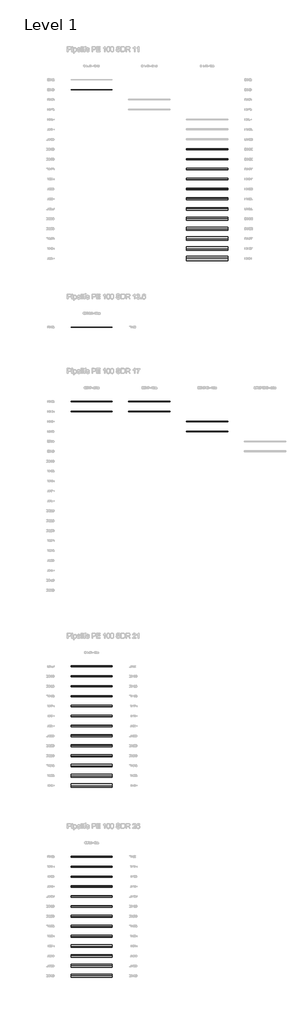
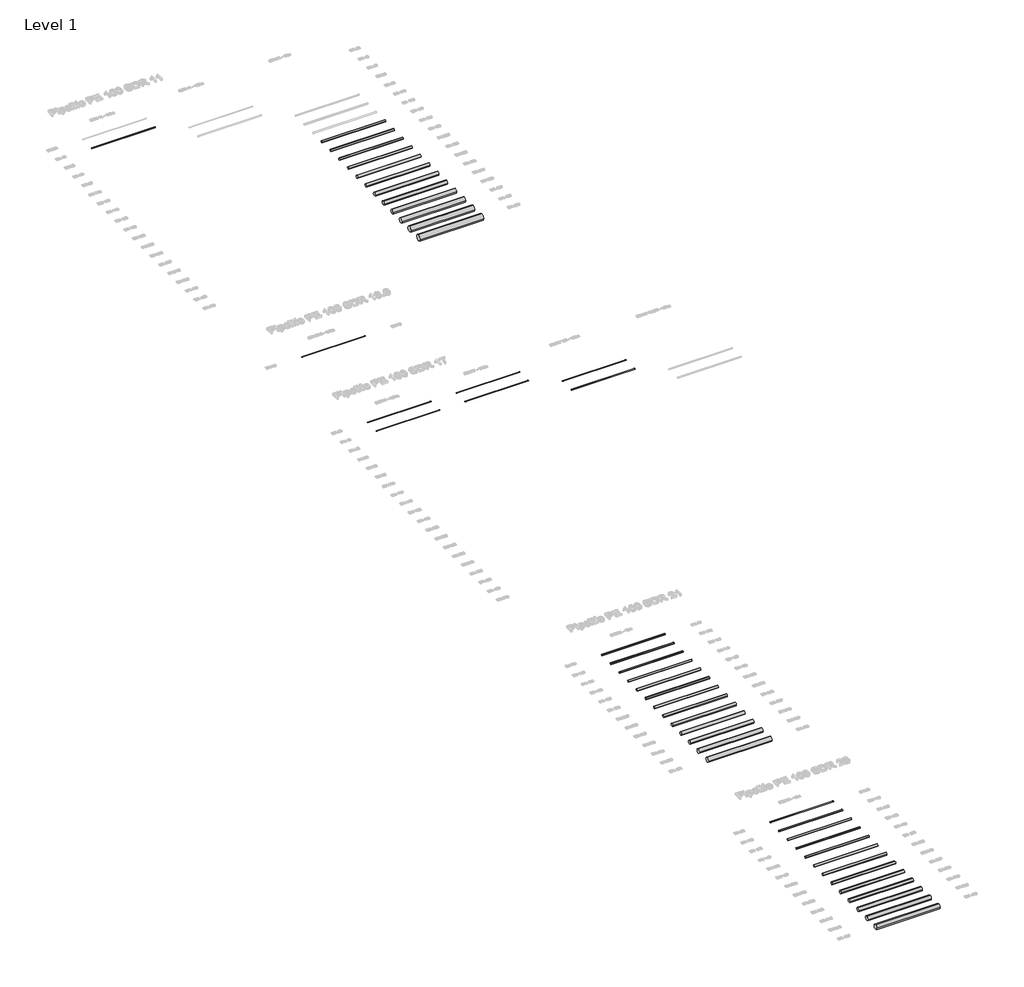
# One storey, part 1 of 26: 46 pipe segments.
"""IFC4 building model written with IfcOpenShell, lengths in millimetres."""

import ifcopenshell
import ifcopenshell.guid

model = None  # the IFC model being written
_history = None  # IfcOwnerHistory: only IFC2X3 demands one
_inside = {}  # id of a spatial element -> (the spatial element, [elements in it])
_under = {}  # id of a project, library or spatial element -> (it, [spatial elements below it])
_declared = {}  # id of a project -> (the project, [libraries it declares])
_typed = {}  # id of a type object -> (the type object, [elements of that type])
_made_of = {}  # id of a material, layer set ... -> (it, [elements and type objects made of it])


def new_model(schema):
    """Start an empty IFC model of exactly this schema.

    Asked for "IFC4X3", IfcOpenShell would pick the latest addendum, in which some entities
    have other attributes; the version numbers below select the first issue.
    IFC2X3 requires an IfcOwnerHistory on every rooted entity: one is made here for all.
    """
    global model, _history
    if schema == "IFC4X3":
        model = ifcopenshell.file(schema_version=(4, 3, 0, 0))
    else:
        model = ifcopenshell.file(schema=schema)
    _inside.clear()
    _under.clear()
    _declared.clear()
    _typed.clear()
    _made_of.clear()
    _history = None
    if model.schema == "IFC2X3":
        org = make("IfcOrganization", Name="unknown")
        user = make(
            "IfcPersonAndOrganization",
            ThePerson=make("IfcPerson", FamilyName="unknown"),
            TheOrganization=org,
        )
        app = make(
            "IfcApplication",
            ApplicationDeveloper=org,
            Version="unknown",
            ApplicationFullName="unknown",
            ApplicationIdentifier="unknown",
        )
        _history = make(
            "IfcOwnerHistory",
            OwningUser=user,
            OwningApplication=app,
            ChangeAction="ADDED",
            CreationDate=0,
        )
    return model


def make(cls, **values):
    """One entity of the class cls with the attributes given. An attribute that is None is left unset."""
    return model.create_entity(
        cls, **{name: value for name, value in values.items() if value is not None}
    )


def rooted(cls, **values):
    """An entity with a GlobalId (a new one), such as an element, a storey or a relation."""
    return make(cls, GlobalId=ifcopenshell.guid.new(), OwnerHistory=_history, **values)


def si_unit(unit_type, name, prefix=None):
    """IfcSIUnit, for example si_unit("LENGTHUNIT", "METRE", prefix="MILLI")."""
    return make("IfcSIUnit", UnitType=unit_type, Prefix=prefix, Name=name)


def assignment(units):
    """IfcUnitAssignment: the units of a project."""
    return None if units is None else make("IfcUnitAssignment", Units=units)


def point(xyz):
    """IfcCartesianPoint."""
    return None if xyz is None else make("IfcCartesianPoint", Coordinates=xyz)


def direction(xyz):
    """IfcDirection."""
    return None if xyz is None else make("IfcDirection", DirectionRatios=xyz)


def frame(location, z_axis=None, x_axis=None):
    """IfcAxis2Placement3D, a coordinate frame: its origin and axes. An axis left out is left unset."""
    return make(
        "IfcAxis2Placement3D",
        Location=point(location),
        Axis=direction(z_axis),
        RefDirection=direction(x_axis),
    )


def frame_2d(location, x_axis=None):
    """IfcAxis2Placement2D, a coordinate frame in the plane: its origin and x axis."""
    return make(
        "IfcAxis2Placement2D", Location=point(location), RefDirection=direction(x_axis)
    )


def origin():
    """The frame at (0, 0, 0) with its axes left unset."""
    return frame((0.0, 0.0, 0.0))


def place(relative_to, where):
    """IfcLocalPlacement: puts the frame where relative to a parent placement (None: the world)."""
    return make(
        "IfcLocalPlacement", PlacementRelTo=relative_to, RelativePlacement=where
    )


def context(
    kind, dimensions, precision=None, world=None, true_north=None, identifier=None
):
    """IfcGeometricRepresentationContext, for example the 3D "Model" context."""
    return make(
        "IfcGeometricRepresentationContext",
        ContextIdentifier=identifier,
        ContextType=kind,
        CoordinateSpaceDimension=dimensions,
        Precision=precision,
        WorldCoordinateSystem=world,
        TrueNorth=true_north,
    )


def project(units=None, contexts=None):
    """IfcProject with its units and contexts."""
    return rooted(
        "IfcProject",
        Name="project",
        RepresentationContexts=contexts,
        UnitsInContext=assignment(units),
    )


def spatial(cls, under=None, at=None, **own):
    """A site, building, storey or space (cls), placed at a placement, below another one or the project."""
    s = rooted(cls, ObjectPlacement=at, **own)
    if under is not None:
        _under.setdefault(under.id(), (under, []))[1].append(s)
    return s


def circle_curve(where, radius):
    """IfcCircle in the frame where."""
    return make("IfcCircle", Position=where, Radius=radius)


def trimmed(basis, trim1, trim2, sense, master):
    """IfcTrimmedCurve: the piece of a basis curve between two trims."""
    return make(
        "IfcTrimmedCurve",
        BasisCurve=basis,
        Trim1=trim1,
        Trim2=trim2,
        SenseAgreement=sense,
        MasterRepresentation=master,
    )


def segment(curve, same_sense, transition):
    """IfcCompositeCurveSegment."""
    return make(
        "IfcCompositeCurveSegment",
        Transition=transition,
        SameSense=same_sense,
        ParentCurve=curve,
    )


def composite_curve(segments, self_intersect=None):
    """IfcCompositeCurve: segments joined end to end."""
    return make("IfcCompositeCurve", Segments=segments, SelfIntersect=self_intersect)


def outline(outer, holes=None, kind="AREA"):
    """IfcArbitraryClosedProfileDef: a profile drawn as a closed curve; with holes, ...WithVoids."""
    if holes is None:
        return make("IfcArbitraryClosedProfileDef", ProfileType=kind, OuterCurve=outer)
    return make(
        "IfcArbitraryProfileDefWithVoids",
        ProfileType=kind,
        OuterCurve=outer,
        InnerCurves=holes,
    )


def extrude(swept, where, along, depth):
    """IfcExtrudedAreaSolid: the profile swept, set in the frame where, extruded along a direction by depth."""
    return make(
        "IfcExtrudedAreaSolid",
        SweptArea=swept,
        Position=where,
        ExtrudedDirection=direction(along),
        Depth=depth,
    )


def shape(context_of_items, identifier, shape_type, items):
    """IfcShapeRepresentation: the items that make up one representation, for example the "Body"."""
    return make(
        "IfcShapeRepresentation",
        ContextOfItems=context_of_items,
        RepresentationIdentifier=identifier,
        RepresentationType=shape_type,
        Items=items,
    )


def made_of(thing, what):
    """Note that an element or type object is made of a material, layer set ...; save() writes the relation."""
    if what is not None:
        _made_of.setdefault(what.id(), (what, []))[1].append(thing)
    return thing


def element(
    cls,
    number,
    at=None,
    inside=None,
    cuts=None,
    type_object=None,
    material=None,
    context=None,
    identifier="Body",
    shape_type=None,
    held_by="IfcProductDefinitionShape",
    body=None,
    shapes=None,
    **own,
):
    """One element of the class cls, such as IfcWall. Its Tag is "e" and its number.

    at: its placement. inside: the storey or other place that contains it. cuts: it is an
    opening in that element (IfcRelVoidsElement). A single representation is given by context,
    identifier, shape_type and body (its items); several are given by shapes. held_by: the class
    of the entity that holds the representations. save() writes the other relations.
    """
    e = rooted(cls, Tag="e%d" % number, ObjectPlacement=at, **own)
    if body is not None:
        shapes = [shape(context, identifier, shape_type, body)]
    if shapes is not None:
        e.Representation = make(held_by, Representations=shapes)
    if inside is not None:
        _inside.setdefault(inside.id(), (inside, []))[1].append(e)
    if cuts is not None:
        rooted(
            "IfcRelVoidsElement", RelatingBuildingElement=cuts, RelatedOpeningElement=e
        )
    if type_object is not None:
        _typed.setdefault(type_object.id(), (type_object, []))[1].append(e)
    return made_of(e, material)


def aggregate(whole, parts):
    """IfcRelAggregates: a whole, such as a stair, and the parts it consists of."""
    return rooted("IfcRelAggregates", RelatingObject=whole, RelatedObjects=parts)


def save(model, path):
    """Write the relations noted so far, then the file.

    IfcRelAggregates (storeys below a building ...), IfcRelContainedInSpatialStructure (elements
    in a storey), IfcRelDefinesByType, IfcRelAssociatesMaterial and IfcRelDeclares: one each for
    every whole, place, type object, material and project.
    """
    for whole, parts in _under.values():
        aggregate(whole, parts)
    for where, things in _inside.values():
        rooted(
            "IfcRelContainedInSpatialStructure",
            RelatedElements=things,
            RelatingStructure=where,
        )
    for kind, things in _typed.values():
        rooted("IfcRelDefinesByType", RelatedObjects=things, RelatingType=kind)
    for what, things in _made_of.values():
        rooted("IfcRelAssociatesMaterial", RelatedObjects=things, RelatingMaterial=what)
    for by, libraries in _declared.values():
        rooted("IfcRelDeclares", RelatingContext=by, RelatedDefinitions=libraries)
    model.write(path)


model = new_model("IFC4")

# Units and contexts
model_context = context("Model", 3, world=origin())
ifc_project = project(units=[si_unit("LENGTHUNIT", "METRE", prefix="MILLI")], contexts=[model_context])

# Site, building, storey
site = spatial("IfcSite", under=ifc_project)
building = spatial("IfcBuilding", under=site)
storey = spatial("IfcBuildingStorey", under=building, Name="Level 1", Elevation=0.0)

# Pipe segments
placement = place(None, origin())
element("IfcPipeSegment", 1, ObjectType="Pipelife PE 100, SDR 11 niebieska - 150m", at=placement, inside=storey, context=model_context, shape_type="SweptSolid", body=[
    extrude(outline(composite_curve([segment(trimmed(circle_curve(frame_2d((-613.949573, 0.0)), 20.0), [point((-633.949573, 0.0))], [point((-613.949573, 20.0))], False, "CARTESIAN"), True, "CONTINUOUS"), segment(trimmed(circle_curve(frame_2d((-613.949573, 0.0)), 20.0), [point((-613.949573, 20.0))], [point((-593.949573, 0.0))], False, "CARTESIAN"), True, "CONTINUOUS"), segment(trimmed(circle_curve(frame_2d((-613.949573, 0.0)), 20.0), [point((-593.949573, 0.0))], [point((-613.949573, -20.0))], False, "CARTESIAN"), True, "CONTINUOUS"), segment(trimmed(circle_curve(frame_2d((-613.949573, 0.0)), 20.0), [point((-613.949573, -20.0))], [point((-633.949573, 0.0))], False, "CARTESIAN"), True, "CONTINUOUS")], self_intersect=False)), frame((-16532.6671252, 0.0, 0.0), z_axis=(1.0, 0.0, 0.0), x_axis=(0.0, 1.0, 0.0)), (0.0, 0.0, 1.0), 5000.0),
])
element("IfcPipeSegment", 2, ObjectType="Pipelife PE 100, SDR 11 czarna - 12m", at=placement, inside=storey, context=model_context, shape_type="SweptSolid", body=[
    extrude(outline(composite_curve([segment(trimmed(circle_curve(frame_2d((-7813.949573, 0.0)), 70.0), [point((-7883.949573, 0.0))], [point((-7813.949573, 70.0))], False, "CARTESIAN"), True, "CONTINUOUS"), segment(trimmed(circle_curve(frame_2d((-7813.949573, 0.0)), 70.0), [point((-7813.949573, 70.0))], [point((-7743.949573, 0.0))], False, "CARTESIAN"), True, "CONTINUOUS"), segment(trimmed(circle_curve(frame_2d((-7813.949573, 0.0)), 70.0), [point((-7743.949573, 0.0))], [point((-7813.949573, -70.0))], False, "CARTESIAN"), True, "CONTINUOUS"), segment(trimmed(circle_curve(frame_2d((-7813.949573, 0.0)), 70.0), [point((-7813.949573, -70.0))], [point((-7883.949573, 0.0))], False, "CARTESIAN"), True, "CONTINUOUS")], self_intersect=False)), frame((-2532.6671252, 0.0, 0.0), z_axis=(1.0, 0.0, 0.0), x_axis=(0.0, 1.0, 0.0)), (0.0, 0.0, 1.0), 5000.0),
])
element("IfcPipeSegment", 3, ObjectType="Pipelife PE 100, SDR 11 czarna - 12m", at=placement, inside=storey, context=model_context, shape_type="SweptSolid", body=[
    extrude(outline(composite_curve([segment(trimmed(circle_curve(frame_2d((-9013.949573, 0.0)), 80.0), [point((-9093.949573, 0.0))], [point((-9013.949573, 80.0))], False, "CARTESIAN"), True, "CONTINUOUS"), segment(trimmed(circle_curve(frame_2d((-9013.949573, 0.0)), 80.0), [point((-9013.949573, 80.0))], [point((-8933.949573, 0.0))], False, "CARTESIAN"), True, "CONTINUOUS"), segment(trimmed(circle_curve(frame_2d((-9013.949573, 0.0)), 80.0), [point((-8933.949573, 0.0))], [point((-9013.949573, -80.0))], False, "CARTESIAN"), True, "CONTINUOUS"), segment(trimmed(circle_curve(frame_2d((-9013.949573, 0.0)), 80.0), [point((-9013.949573, -80.0))], [point((-9093.949573, 0.0))], False, "CARTESIAN"), True, "CONTINUOUS")], self_intersect=False)), frame((-2532.6671252, 0.0, 0.0), z_axis=(1.0, 0.0, 0.0), x_axis=(0.0, 1.0, 0.0)), (0.0, 0.0, 1.0), 5000.0),
])
element("IfcPipeSegment", 4, ObjectType="Pipelife PE 100, SDR 11 czarna - 12m", at=placement, inside=storey, context=model_context, shape_type="SweptSolid", body=[
    extrude(outline(composite_curve([segment(trimmed(circle_curve(frame_2d((-10213.949573, 0.0)), 90.0), [point((-10303.949573, 0.0))], [point((-10213.949573, 90.0))], False, "CARTESIAN"), True, "CONTINUOUS"), segment(trimmed(circle_curve(frame_2d((-10213.949573, 0.0)), 90.0), [point((-10213.949573, 90.0))], [point((-10123.949573, 0.0))], False, "CARTESIAN"), True, "CONTINUOUS"), segment(trimmed(circle_curve(frame_2d((-10213.949573, 0.0)), 90.0), [point((-10123.949573, 0.0))], [point((-10213.949573, -90.0))], False, "CARTESIAN"), True, "CONTINUOUS"), segment(trimmed(circle_curve(frame_2d((-10213.949573, 0.0)), 90.0), [point((-10213.949573, -90.0))], [point((-10303.949573, 0.0))], False, "CARTESIAN"), True, "CONTINUOUS")], self_intersect=False)), frame((-2532.6671252, 0.0, 0.0), z_axis=(1.0, 0.0, 0.0), x_axis=(0.0, 1.0, 0.0)), (0.0, 0.0, 1.0), 5000.0),
])
element("IfcPipeSegment", 5, ObjectType="Pipelife PE 100, SDR 11 czarna - 12m", at=placement, inside=storey, context=model_context, shape_type="SweptSolid", body=[
    extrude(outline(composite_curve([segment(trimmed(circle_curve(frame_2d((-11413.949573, 0.0)), 100.0), [point((-11513.949573, 0.0))], [point((-11413.949573, 100.0))], False, "CARTESIAN"), True, "CONTINUOUS"), segment(trimmed(circle_curve(frame_2d((-11413.949573, 0.0)), 100.0), [point((-11413.949573, 100.0))], [point((-11313.949573, 0.0))], False, "CARTESIAN"), True, "CONTINUOUS"), segment(trimmed(circle_curve(frame_2d((-11413.949573, 0.0)), 100.0), [point((-11313.949573, 0.0))], [point((-11413.949573, -100.0))], False, "CARTESIAN"), True, "CONTINUOUS"), segment(trimmed(circle_curve(frame_2d((-11413.949573, 0.0)), 100.0), [point((-11413.949573, -100.0))], [point((-11513.949573, 0.0))], False, "CARTESIAN"), True, "CONTINUOUS")], self_intersect=False)), frame((-2532.6671252, 0.0, 0.0), z_axis=(1.0, 0.0, 0.0), x_axis=(0.0, 1.0, 0.0)), (0.0, 0.0, 1.0), 5000.0),
])
element("IfcPipeSegment", 6, ObjectType="Pipelife PE 100, SDR 11 czarna - 12m", at=placement, inside=storey, context=model_context, shape_type="SweptSolid", body=[
    extrude(outline(composite_curve([segment(trimmed(circle_curve(frame_2d((-12613.949573, 0.0)), 112.5), [point((-12726.449573, 0.0))], [point((-12613.949573, 112.5))], False, "CARTESIAN"), True, "CONTINUOUS"), segment(trimmed(circle_curve(frame_2d((-12613.949573, 0.0)), 112.5), [point((-12613.949573, 112.5))], [point((-12501.449573, 0.0))], False, "CARTESIAN"), True, "CONTINUOUS"), segment(trimmed(circle_curve(frame_2d((-12613.949573, 0.0)), 112.5), [point((-12501.449573, 0.0))], [point((-12613.949573, -112.5))], False, "CARTESIAN"), True, "CONTINUOUS"), segment(trimmed(circle_curve(frame_2d((-12613.949573, 0.0)), 112.5), [point((-12613.949573, -112.5))], [point((-12726.449573, 0.0))], False, "CARTESIAN"), True, "CONTINUOUS")], self_intersect=False)), frame((-2532.6671252, 0.0, 0.0), z_axis=(1.0, 0.0, 0.0), x_axis=(0.0, 1.0, 0.0)), (0.0, 0.0, 1.0), 5000.0),
])
element("IfcPipeSegment", 7, ObjectType="Pipelife PE 100, SDR 11 czarna - 12m", at=placement, inside=storey, context=model_context, shape_type="SweptSolid", body=[
    extrude(outline(composite_curve([segment(trimmed(circle_curve(frame_2d((-13813.949573, 0.0)), 125.0), [point((-13938.949573, 0.0))], [point((-13813.949573, 125.0))], False, "CARTESIAN"), True, "CONTINUOUS"), segment(trimmed(circle_curve(frame_2d((-13813.949573, 0.0)), 125.0), [point((-13813.949573, 125.0))], [point((-13688.949573, 0.0))], False, "CARTESIAN"), True, "CONTINUOUS"), segment(trimmed(circle_curve(frame_2d((-13813.949573, 0.0)), 125.0), [point((-13688.949573, 0.0))], [point((-13813.949573, -125.0))], False, "CARTESIAN"), True, "CONTINUOUS"), segment(trimmed(circle_curve(frame_2d((-13813.949573, 0.0)), 125.0), [point((-13813.949573, -125.0))], [point((-13938.949573, 0.0))], False, "CARTESIAN"), True, "CONTINUOUS")], self_intersect=False)), frame((-2532.6671252, 0.0, 0.0), z_axis=(1.0, 0.0, 0.0), x_axis=(0.0, 1.0, 0.0)), (0.0, 0.0, 1.0), 5000.0),
])
element("IfcPipeSegment", 8, ObjectType="Pipelife PE 100, SDR 11 czarna - 12m", at=placement, inside=storey, context=model_context, shape_type="SweptSolid", body=[
    extrude(outline(composite_curve([segment(trimmed(circle_curve(frame_2d((-15013.949573, 0.0)), 140.0), [point((-15153.949573, 0.0))], [point((-15013.949573, 140.0))], False, "CARTESIAN"), True, "CONTINUOUS"), segment(trimmed(circle_curve(frame_2d((-15013.949573, 0.0)), 140.0), [point((-15013.949573, 140.0))], [point((-14873.949573, 0.0))], False, "CARTESIAN"), True, "CONTINUOUS"), segment(trimmed(circle_curve(frame_2d((-15013.949573, 0.0)), 140.0), [point((-14873.949573, 0.0))], [point((-15013.949573, -140.0))], False, "CARTESIAN"), True, "CONTINUOUS"), segment(trimmed(circle_curve(frame_2d((-15013.949573, 0.0)), 140.0), [point((-15013.949573, -140.0))], [point((-15153.949573, 0.0))], False, "CARTESIAN"), True, "CONTINUOUS")], self_intersect=False)), frame((-2532.6671252, 0.0, 0.0), z_axis=(1.0, 0.0, 0.0), x_axis=(0.0, 1.0, 0.0)), (0.0, 0.0, 1.0), 5000.0),
])
element("IfcPipeSegment", 9, ObjectType="Pipelife PE 100, SDR 11 czarna - 12m", at=placement, inside=storey, context=model_context, shape_type="SweptSolid", body=[
    extrude(outline(composite_curve([segment(trimmed(circle_curve(frame_2d((-16213.949573, 0.0)), 157.5), [point((-16371.449573, 0.0))], [point((-16213.949573, 157.5))], False, "CARTESIAN"), True, "CONTINUOUS"), segment(trimmed(circle_curve(frame_2d((-16213.949573, 0.0)), 157.5), [point((-16213.949573, 157.5))], [point((-16056.449573, 0.0))], False, "CARTESIAN"), True, "CONTINUOUS"), segment(trimmed(circle_curve(frame_2d((-16213.949573, 0.0)), 157.5), [point((-16056.449573, 0.0))], [point((-16213.949573, -157.5))], False, "CARTESIAN"), True, "CONTINUOUS"), segment(trimmed(circle_curve(frame_2d((-16213.949573, 0.0)), 157.5), [point((-16213.949573, -157.5))], [point((-16371.449573, 0.0))], False, "CARTESIAN"), True, "CONTINUOUS")], self_intersect=False)), frame((-2532.6671252, 0.0, 0.0), z_axis=(1.0, 0.0, 0.0), x_axis=(0.0, 1.0, 0.0)), (0.0, 0.0, 1.0), 5000.0),
])
element("IfcPipeSegment", 10, ObjectType="Pipelife PE 100, SDR 11 czarna - 12m", at=placement, inside=storey, context=model_context, shape_type="SweptSolid", body=[
    extrude(outline(composite_curve([segment(trimmed(circle_curve(frame_2d((-17413.949573, 0.0)), 177.5), [point((-17591.449573, 0.0))], [point((-17413.949573, 177.5))], False, "CARTESIAN"), True, "CONTINUOUS"), segment(trimmed(circle_curve(frame_2d((-17413.949573, 0.0)), 177.5), [point((-17413.949573, 177.5))], [point((-17236.449573, 0.0))], False, "CARTESIAN"), True, "CONTINUOUS"), segment(trimmed(circle_curve(frame_2d((-17413.949573, 0.0)), 177.5), [point((-17236.449573, 0.0))], [point((-17413.949573, -177.5))], False, "CARTESIAN"), True, "CONTINUOUS"), segment(trimmed(circle_curve(frame_2d((-17413.949573, 0.0)), 177.5), [point((-17413.949573, -177.5))], [point((-17591.449573, 0.0))], False, "CARTESIAN"), True, "CONTINUOUS")], self_intersect=False)), frame((-2532.6671252, 0.0, 0.0), z_axis=(1.0, 0.0, 0.0), x_axis=(0.0, 1.0, 0.0)), (0.0, 0.0, 1.0), 5000.0),
])
element("IfcPipeSegment", 11, ObjectType="Pipelife PE 100, SDR 11 czarna - 12m", at=placement, inside=storey, context=model_context, shape_type="SweptSolid", body=[
    extrude(outline(composite_curve([segment(trimmed(circle_curve(frame_2d((-18613.949573, 0.0)), 200.0), [point((-18813.949573, 0.0))], [point((-18613.949573, 200.0))], False, "CARTESIAN"), True, "CONTINUOUS"), segment(trimmed(circle_curve(frame_2d((-18613.949573, 0.0)), 200.0), [point((-18613.949573, 200.0))], [point((-18413.949573, 0.0))], False, "CARTESIAN"), True, "CONTINUOUS"), segment(trimmed(circle_curve(frame_2d((-18613.949573, 0.0)), 200.0), [point((-18413.949573, 0.0))], [point((-18613.949573, -200.0))], False, "CARTESIAN"), True, "CONTINUOUS"), segment(trimmed(circle_curve(frame_2d((-18613.949573, 0.0)), 200.0), [point((-18613.949573, -200.0))], [point((-18813.949573, 0.0))], False, "CARTESIAN"), True, "CONTINUOUS")], self_intersect=False)), frame((-2532.6671252, 0.0, 0.0), z_axis=(1.0, 0.0, 0.0), x_axis=(0.0, 1.0, 0.0)), (0.0, 0.0, 1.0), 5000.0),
])
element("IfcPipeSegment", 12, ObjectType="Pipelife PE 100, SDR 11 czarna - 12m", at=placement, inside=storey, context=model_context, shape_type="SweptSolid", body=[
    extrude(outline(composite_curve([segment(trimmed(circle_curve(frame_2d((-19813.949573, 0.0)), 225.0), [point((-20038.949573, 0.0))], [point((-19813.949573, 225.0))], False, "CARTESIAN"), True, "CONTINUOUS"), segment(trimmed(circle_curve(frame_2d((-19813.949573, 0.0)), 225.0), [point((-19813.949573, 225.0))], [point((-19588.949573, 0.0))], False, "CARTESIAN"), True, "CONTINUOUS"), segment(trimmed(circle_curve(frame_2d((-19813.949573, 0.0)), 225.0), [point((-19588.949573, 0.0))], [point((-19813.949573, -225.0))], False, "CARTESIAN"), True, "CONTINUOUS"), segment(trimmed(circle_curve(frame_2d((-19813.949573, 0.0)), 225.0), [point((-19813.949573, -225.0))], [point((-20038.949573, 0.0))], False, "CARTESIAN"), True, "CONTINUOUS")], self_intersect=False)), frame((-2532.6671252, 0.0, 0.0), z_axis=(1.0, 0.0, 0.0), x_axis=(0.0, 1.0, 0.0)), (0.0, 0.0, 1.0), 5000.0),
])
element("IfcPipeSegment", 13, ObjectType="Pipelife PE 100, SDR 11 czarna - 12m", at=placement, inside=storey, context=model_context, shape_type="SweptSolid", body=[
    extrude(outline(composite_curve([segment(trimmed(circle_curve(frame_2d((-21013.949573, 0.0)), 250.0), [point((-21263.949573, 0.0))], [point((-21013.949573, 250.0))], False, "CARTESIAN"), True, "CONTINUOUS"), segment(trimmed(circle_curve(frame_2d((-21013.949573, 0.0)), 250.0), [point((-21013.949573, 250.0))], [point((-20763.949573, 0.0))], False, "CARTESIAN"), True, "CONTINUOUS"), segment(trimmed(circle_curve(frame_2d((-21013.949573, 0.0)), 250.0), [point((-20763.949573, 0.0))], [point((-21013.949573, -250.0))], False, "CARTESIAN"), True, "CONTINUOUS"), segment(trimmed(circle_curve(frame_2d((-21013.949573, 0.0)), 250.0), [point((-21013.949573, -250.0))], [point((-21263.949573, 0.0))], False, "CARTESIAN"), True, "CONTINUOUS")], self_intersect=False)), frame((-2532.6671252, 0.0, 0.0), z_axis=(1.0, 0.0, 0.0), x_axis=(0.0, 1.0, 0.0)), (0.0, 0.0, 1.0), 5000.0),
])
element("IfcPipeSegment", 14, ObjectType="Pipelife PE 100, SDR 13,6 niebieska - 150m", at=placement, inside=storey, context=model_context, shape_type="SweptSolid", body=[
    extrude(outline(composite_curve([segment(trimmed(circle_curve(frame_2d((-29313.949573, 0.0)), 12.5), [point((-29326.449573, 0.0))], [point((-29313.949573, 12.5))], False, "CARTESIAN"), True, "CONTINUOUS"), segment(trimmed(circle_curve(frame_2d((-29313.949573, 0.0)), 12.5), [point((-29313.949573, 12.5))], [point((-29301.449573, 0.0))], False, "CARTESIAN"), True, "CONTINUOUS"), segment(trimmed(circle_curve(frame_2d((-29313.949573, 0.0)), 12.5), [point((-29301.449573, 0.0))], [point((-29313.949573, -12.5))], False, "CARTESIAN"), True, "CONTINUOUS"), segment(trimmed(circle_curve(frame_2d((-29313.949573, 0.0)), 12.5), [point((-29313.949573, -12.5))], [point((-29326.449573, 0.0))], False, "CARTESIAN"), True, "CONTINUOUS")], self_intersect=False)), frame((-16532.6671252, 0.0, 0.0), z_axis=(1.0, 0.0, 0.0), x_axis=(0.0, 1.0, 0.0)), (0.0, 0.0, 1.0), 5000.0),
])
element("IfcPipeSegment", 15, ObjectType="Pipelife PE 100, SDR 17 niebieska - 200m", at=placement, inside=storey, context=model_context, shape_type="SweptSolid", body=[
    extrude(outline(composite_curve([segment(trimmed(circle_curve(frame_2d((-38313.949573, 0.0)), 16.0), [point((-38329.949573, 0.0))], [point((-38313.949573, 16.0))], False, "CARTESIAN"), True, "CONTINUOUS"), segment(trimmed(circle_curve(frame_2d((-38313.949573, 0.0)), 16.0), [point((-38313.949573, 16.0))], [point((-38297.949573, 0.0))], False, "CARTESIAN"), True, "CONTINUOUS"), segment(trimmed(circle_curve(frame_2d((-38313.949573, 0.0)), 16.0), [point((-38297.949573, 0.0))], [point((-38313.949573, -16.0))], False, "CARTESIAN"), True, "CONTINUOUS"), segment(trimmed(circle_curve(frame_2d((-38313.949573, 0.0)), 16.0), [point((-38313.949573, -16.0))], [point((-38329.949573, 0.0))], False, "CARTESIAN"), True, "CONTINUOUS")], self_intersect=False)), frame((-16532.6671252, 0.0, 0.0), z_axis=(1.0, 0.0, 0.0), x_axis=(0.0, 1.0, 0.0)), (0.0, 0.0, 1.0), 5000.0),
])
element("IfcPipeSegment", 16, ObjectType="Pipelife PE 100, SDR 17 niebieska - 200m", at=placement, inside=storey, context=model_context, shape_type="SweptSolid", body=[
    extrude(outline(composite_curve([segment(trimmed(circle_curve(frame_2d((-39513.949573, 0.0)), 20.0), [point((-39533.949573, 0.0))], [point((-39513.949573, 20.0))], False, "CARTESIAN"), True, "CONTINUOUS"), segment(trimmed(circle_curve(frame_2d((-39513.949573, 0.0)), 20.0), [point((-39513.949573, 20.0))], [point((-39493.949573, 0.0))], False, "CARTESIAN"), True, "CONTINUOUS"), segment(trimmed(circle_curve(frame_2d((-39513.949573, 0.0)), 20.0), [point((-39493.949573, 0.0))], [point((-39513.949573, -20.0))], False, "CARTESIAN"), True, "CONTINUOUS"), segment(trimmed(circle_curve(frame_2d((-39513.949573, 0.0)), 20.0), [point((-39513.949573, -20.0))], [point((-39533.949573, 0.0))], False, "CARTESIAN"), True, "CONTINUOUS")], self_intersect=False)), frame((-16532.6671252, 0.0, 0.0), z_axis=(1.0, 0.0, 0.0), x_axis=(0.0, 1.0, 0.0)), (0.0, 0.0, 1.0), 5000.0),
])
element("IfcPipeSegment", 17, ObjectType="Pipelife PE 100, SDR 17 niebieska - 150m", at=placement, inside=storey, context=model_context, shape_type="SweptSolid", body=[
    extrude(outline(composite_curve([segment(trimmed(circle_curve(frame_2d((-38313.949573, 0.0)), 16.0), [point((-38329.949573, 0.0))], [point((-38313.949573, 16.0))], False, "CARTESIAN"), True, "CONTINUOUS"), segment(trimmed(circle_curve(frame_2d((-38313.949573, 0.0)), 16.0), [point((-38313.949573, 16.0))], [point((-38297.949573, 0.0))], False, "CARTESIAN"), True, "CONTINUOUS"), segment(trimmed(circle_curve(frame_2d((-38313.949573, 0.0)), 16.0), [point((-38297.949573, 0.0))], [point((-38313.949573, -16.0))], False, "CARTESIAN"), True, "CONTINUOUS"), segment(trimmed(circle_curve(frame_2d((-38313.949573, 0.0)), 16.0), [point((-38313.949573, -16.0))], [point((-38329.949573, 0.0))], False, "CARTESIAN"), True, "CONTINUOUS")], self_intersect=False)), frame((-9532.6671252, 0.0, 0.0), z_axis=(1.0, 0.0, 0.0), x_axis=(0.0, 1.0, 0.0)), (0.0, 0.0, 1.0), 5000.0),
])
element("IfcPipeSegment", 18, ObjectType="Pipelife PE 100, SDR 17 niebieska - 150m", at=placement, inside=storey, context=model_context, shape_type="SweptSolid", body=[
    extrude(outline(composite_curve([segment(trimmed(circle_curve(frame_2d((-39513.949573, 0.0)), 20.0), [point((-39533.949573, 0.0))], [point((-39513.949573, 20.0))], False, "CARTESIAN"), True, "CONTINUOUS"), segment(trimmed(circle_curve(frame_2d((-39513.949573, 0.0)), 20.0), [point((-39513.949573, 20.0))], [point((-39493.949573, 0.0))], False, "CARTESIAN"), True, "CONTINUOUS"), segment(trimmed(circle_curve(frame_2d((-39513.949573, 0.0)), 20.0), [point((-39493.949573, 0.0))], [point((-39513.949573, -20.0))], False, "CARTESIAN"), True, "CONTINUOUS"), segment(trimmed(circle_curve(frame_2d((-39513.949573, 0.0)), 20.0), [point((-39513.949573, -20.0))], [point((-39533.949573, 0.0))], False, "CARTESIAN"), True, "CONTINUOUS")], self_intersect=False)), frame((-9532.6671252, 0.0, 0.0), z_axis=(1.0, 0.0, 0.0), x_axis=(0.0, 1.0, 0.0)), (0.0, 0.0, 1.0), 5000.0),
])
element("IfcPipeSegment", 19, ObjectType="Pipelife PE 100, SDR 17 niebieska - 100m", at=placement, inside=storey, context=model_context, shape_type="SweptSolid", body=[
    extrude(outline(composite_curve([segment(trimmed(circle_curve(frame_2d((-40713.949573, 0.0)), 25.0), [point((-40738.949573, 0.0))], [point((-40713.949573, 25.0))], False, "CARTESIAN"), True, "CONTINUOUS"), segment(trimmed(circle_curve(frame_2d((-40713.949573, 0.0)), 25.0), [point((-40713.949573, 25.0))], [point((-40688.949573, 0.0))], False, "CARTESIAN"), True, "CONTINUOUS"), segment(trimmed(circle_curve(frame_2d((-40713.949573, 0.0)), 25.0), [point((-40688.949573, 0.0))], [point((-40713.949573, -25.0))], False, "CARTESIAN"), True, "CONTINUOUS"), segment(trimmed(circle_curve(frame_2d((-40713.949573, 0.0)), 25.0), [point((-40713.949573, -25.0))], [point((-40738.949573, 0.0))], False, "CARTESIAN"), True, "CONTINUOUS")], self_intersect=False)), frame((-2532.6671252, 0.0, 0.0), z_axis=(1.0, 0.0, 0.0), x_axis=(0.0, 1.0, 0.0)), (0.0, 0.0, 1.0), 5000.0),
])
element("IfcPipeSegment", 20, ObjectType="Pipelife PE 100, SDR 17 niebieska - 100m", at=placement, inside=storey, context=model_context, shape_type="SweptSolid", body=[
    extrude(outline(composite_curve([segment(trimmed(circle_curve(frame_2d((-41913.949573, 0.0)), 31.5), [point((-41945.449573, 0.0))], [point((-41913.949573, 31.5))], False, "CARTESIAN"), True, "CONTINUOUS"), segment(trimmed(circle_curve(frame_2d((-41913.949573, 0.0)), 31.5), [point((-41913.949573, 31.5))], [point((-41882.449573, 0.0))], False, "CARTESIAN"), True, "CONTINUOUS"), segment(trimmed(circle_curve(frame_2d((-41913.949573, 0.0)), 31.5), [point((-41882.449573, 0.0))], [point((-41913.949573, -31.5))], False, "CARTESIAN"), True, "CONTINUOUS"), segment(trimmed(circle_curve(frame_2d((-41913.949573, 0.0)), 31.5), [point((-41913.949573, -31.5))], [point((-41945.449573, 0.0))], False, "CARTESIAN"), True, "CONTINUOUS")], self_intersect=False)), frame((-2532.6671252, 0.0, 0.0), z_axis=(1.0, 0.0, 0.0), x_axis=(0.0, 1.0, 0.0)), (0.0, 0.0, 1.0), 5000.0),
])
element("IfcPipeSegment", 21, ObjectType="Pipelife PE 100, SDR 21 czarna - 12m", at=placement, inside=storey, context=model_context, shape_type="SweptSolid", body=[
    extrude(outline(composite_curve([segment(trimmed(circle_curve(frame_2d((-70313.949573, 0.0)), 45.0), [point((-70358.949573, 0.0))], [point((-70313.949573, 45.0))], False, "CARTESIAN"), True, "CONTINUOUS"), segment(trimmed(circle_curve(frame_2d((-70313.949573, 0.0)), 45.0), [point((-70313.949573, 45.0))], [point((-70268.949573, 0.0))], False, "CARTESIAN"), True, "CONTINUOUS"), segment(trimmed(circle_curve(frame_2d((-70313.949573, 0.0)), 45.0), [point((-70268.949573, 0.0))], [point((-70313.949573, -45.0))], False, "CARTESIAN"), True, "CONTINUOUS"), segment(trimmed(circle_curve(frame_2d((-70313.949573, 0.0)), 45.0), [point((-70313.949573, -45.0))], [point((-70358.949573, 0.0))], False, "CARTESIAN"), True, "CONTINUOUS")], self_intersect=False)), frame((-16532.6671252, 0.0, 0.0), z_axis=(1.0, 0.0, 0.0), x_axis=(0.0, 1.0, 0.0)), (0.0, 0.0, 1.0), 5000.0),
])
element("IfcPipeSegment", 22, ObjectType="Pipelife PE 100, SDR 21 czarna - 12m", at=placement, inside=storey, context=model_context, shape_type="SweptSolid", body=[
    extrude(outline(composite_curve([segment(trimmed(circle_curve(frame_2d((-71513.949573, 0.0)), 55.0), [point((-71568.949573, 0.0))], [point((-71513.949573, 55.0))], False, "CARTESIAN"), True, "CONTINUOUS"), segment(trimmed(circle_curve(frame_2d((-71513.949573, 0.0)), 55.0), [point((-71513.949573, 55.0))], [point((-71458.949573, 0.0))], False, "CARTESIAN"), True, "CONTINUOUS"), segment(trimmed(circle_curve(frame_2d((-71513.949573, 0.0)), 55.0), [point((-71458.949573, 0.0))], [point((-71513.949573, -55.0))], False, "CARTESIAN"), True, "CONTINUOUS"), segment(trimmed(circle_curve(frame_2d((-71513.949573, 0.0)), 55.0), [point((-71513.949573, -55.0))], [point((-71568.949573, 0.0))], False, "CARTESIAN"), True, "CONTINUOUS")], self_intersect=False)), frame((-16532.6671252, 0.0, 0.0), z_axis=(1.0, 0.0, 0.0), x_axis=(0.0, 1.0, 0.0)), (0.0, 0.0, 1.0), 5000.0),
])
element("IfcPipeSegment", 23, ObjectType="Pipelife PE 100, SDR 21 czarna - 12m", at=placement, inside=storey, context=model_context, shape_type="SweptSolid", body=[
    extrude(outline(composite_curve([segment(trimmed(circle_curve(frame_2d((-72713.949573, 0.0)), 62.5), [point((-72776.449573, 0.0))], [point((-72713.949573, 62.5))], False, "CARTESIAN"), True, "CONTINUOUS"), segment(trimmed(circle_curve(frame_2d((-72713.949573, 0.0)), 62.5), [point((-72713.949573, 62.5))], [point((-72651.449573, 0.0))], False, "CARTESIAN"), True, "CONTINUOUS"), segment(trimmed(circle_curve(frame_2d((-72713.949573, 0.0)), 62.5), [point((-72651.449573, 0.0))], [point((-72713.949573, -62.5))], False, "CARTESIAN"), True, "CONTINUOUS"), segment(trimmed(circle_curve(frame_2d((-72713.949573, 0.0)), 62.5), [point((-72713.949573, -62.5))], [point((-72776.449573, 0.0))], False, "CARTESIAN"), True, "CONTINUOUS")], self_intersect=False)), frame((-16532.6671252, 0.0, 0.0), z_axis=(1.0, 0.0, 0.0), x_axis=(0.0, 1.0, 0.0)), (0.0, 0.0, 1.0), 5000.0),
])
element("IfcPipeSegment", 24, ObjectType="Pipelife PE 100, SDR 21 czarna - 12m", at=placement, inside=storey, context=model_context, shape_type="SweptSolid", body=[
    extrude(outline(composite_curve([segment(trimmed(circle_curve(frame_2d((-73913.949573, 0.0)), 70.0), [point((-73983.949573, 0.0))], [point((-73913.949573, 70.0))], False, "CARTESIAN"), True, "CONTINUOUS"), segment(trimmed(circle_curve(frame_2d((-73913.949573, 0.0)), 70.0), [point((-73913.949573, 70.0))], [point((-73843.949573, 0.0))], False, "CARTESIAN"), True, "CONTINUOUS"), segment(trimmed(circle_curve(frame_2d((-73913.949573, 0.0)), 70.0), [point((-73843.949573, 0.0))], [point((-73913.949573, -70.0))], False, "CARTESIAN"), True, "CONTINUOUS"), segment(trimmed(circle_curve(frame_2d((-73913.949573, 0.0)), 70.0), [point((-73913.949573, -70.0))], [point((-73983.949573, 0.0))], False, "CARTESIAN"), True, "CONTINUOUS")], self_intersect=False)), frame((-16532.6671252, 0.0, 0.0), z_axis=(1.0, 0.0, 0.0), x_axis=(0.0, 1.0, 0.0)), (0.0, 0.0, 1.0), 5000.0),
])
element("IfcPipeSegment", 25, ObjectType="Pipelife PE 100, SDR 21 czarna - 12m", at=placement, inside=storey, context=model_context, shape_type="SweptSolid", body=[
    extrude(outline(composite_curve([segment(trimmed(circle_curve(frame_2d((-75113.949573, 0.0)), 80.0), [point((-75193.949573, 0.0))], [point((-75113.949573, 80.0))], False, "CARTESIAN"), True, "CONTINUOUS"), segment(trimmed(circle_curve(frame_2d((-75113.949573, 0.0)), 80.0), [point((-75113.949573, 80.0))], [point((-75033.949573, 0.0))], False, "CARTESIAN"), True, "CONTINUOUS"), segment(trimmed(circle_curve(frame_2d((-75113.949573, 0.0)), 80.0), [point((-75033.949573, 0.0))], [point((-75113.949573, -80.0))], False, "CARTESIAN"), True, "CONTINUOUS"), segment(trimmed(circle_curve(frame_2d((-75113.949573, 0.0)), 80.0), [point((-75113.949573, -80.0))], [point((-75193.949573, 0.0))], False, "CARTESIAN"), True, "CONTINUOUS")], self_intersect=False)), frame((-16532.6671252, 0.0, 0.0), z_axis=(1.0, 0.0, 0.0), x_axis=(0.0, 1.0, 0.0)), (0.0, 0.0, 1.0), 5000.0),
])
element("IfcPipeSegment", 26, ObjectType="Pipelife PE 100, SDR 21 czarna - 12m", at=placement, inside=storey, context=model_context, shape_type="SweptSolid", body=[
    extrude(outline(composite_curve([segment(trimmed(circle_curve(frame_2d((-76313.949573, 0.0)), 90.0), [point((-76403.949573, 0.0))], [point((-76313.949573, 90.0))], False, "CARTESIAN"), True, "CONTINUOUS"), segment(trimmed(circle_curve(frame_2d((-76313.949573, 0.0)), 90.0), [point((-76313.949573, 90.0))], [point((-76223.949573, 0.0))], False, "CARTESIAN"), True, "CONTINUOUS"), segment(trimmed(circle_curve(frame_2d((-76313.949573, 0.0)), 90.0), [point((-76223.949573, 0.0))], [point((-76313.949573, -90.0))], False, "CARTESIAN"), True, "CONTINUOUS"), segment(trimmed(circle_curve(frame_2d((-76313.949573, 0.0)), 90.0), [point((-76313.949573, -90.0))], [point((-76403.949573, 0.0))], False, "CARTESIAN"), True, "CONTINUOUS")], self_intersect=False)), frame((-16532.6671252, 0.0, 0.0), z_axis=(1.0, 0.0, 0.0), x_axis=(0.0, 1.0, 0.0)), (0.0, 0.0, 1.0), 5000.0),
])
element("IfcPipeSegment", 27, ObjectType="Pipelife PE 100, SDR 21 czarna - 12m", at=placement, inside=storey, context=model_context, shape_type="SweptSolid", body=[
    extrude(outline(composite_curve([segment(trimmed(circle_curve(frame_2d((-77513.949573, 0.0)), 100.0), [point((-77613.949573, 0.0))], [point((-77513.949573, 100.0))], False, "CARTESIAN"), True, "CONTINUOUS"), segment(trimmed(circle_curve(frame_2d((-77513.949573, 0.0)), 100.0), [point((-77513.949573, 100.0))], [point((-77413.949573, 0.0))], False, "CARTESIAN"), True, "CONTINUOUS"), segment(trimmed(circle_curve(frame_2d((-77513.949573, 0.0)), 100.0), [point((-77413.949573, 0.0))], [point((-77513.949573, -100.0))], False, "CARTESIAN"), True, "CONTINUOUS"), segment(trimmed(circle_curve(frame_2d((-77513.949573, 0.0)), 100.0), [point((-77513.949573, -100.0))], [point((-77613.949573, 0.0))], False, "CARTESIAN"), True, "CONTINUOUS")], self_intersect=False)), frame((-16532.6671252, 0.0, 0.0), z_axis=(1.0, 0.0, 0.0), x_axis=(0.0, 1.0, 0.0)), (0.0, 0.0, 1.0), 5000.0),
])
element("IfcPipeSegment", 28, ObjectType="Pipelife PE 100, SDR 21 czarna - 12m", at=placement, inside=storey, context=model_context, shape_type="SweptSolid", body=[
    extrude(outline(composite_curve([segment(trimmed(circle_curve(frame_2d((-78713.949573, 0.0)), 112.5), [point((-78826.449573, 0.0))], [point((-78713.949573, 112.5))], False, "CARTESIAN"), True, "CONTINUOUS"), segment(trimmed(circle_curve(frame_2d((-78713.949573, 0.0)), 112.5), [point((-78713.949573, 112.5))], [point((-78601.449573, 0.0))], False, "CARTESIAN"), True, "CONTINUOUS"), segment(trimmed(circle_curve(frame_2d((-78713.949573, 0.0)), 112.5), [point((-78601.449573, 0.0))], [point((-78713.949573, -112.5))], False, "CARTESIAN"), True, "CONTINUOUS"), segment(trimmed(circle_curve(frame_2d((-78713.949573, 0.0)), 112.5), [point((-78713.949573, -112.5))], [point((-78826.449573, 0.0))], False, "CARTESIAN"), True, "CONTINUOUS")], self_intersect=False)), frame((-16532.6671252, 0.0, 0.0), z_axis=(1.0, 0.0, 0.0), x_axis=(0.0, 1.0, 0.0)), (0.0, 0.0, 1.0), 5000.0),
])
element("IfcPipeSegment", 29, ObjectType="Pipelife PE 100, SDR 21 czarna - 12m", at=placement, inside=storey, context=model_context, shape_type="SweptSolid", body=[
    extrude(outline(composite_curve([segment(trimmed(circle_curve(frame_2d((-79913.949573, 0.0)), 125.0), [point((-80038.949573, 0.0))], [point((-79913.949573, 125.0))], False, "CARTESIAN"), True, "CONTINUOUS"), segment(trimmed(circle_curve(frame_2d((-79913.949573, 0.0)), 125.0), [point((-79913.949573, 125.0))], [point((-79788.949573, 0.0))], False, "CARTESIAN"), True, "CONTINUOUS"), segment(trimmed(circle_curve(frame_2d((-79913.949573, 0.0)), 125.0), [point((-79788.949573, 0.0))], [point((-79913.949573, -125.0))], False, "CARTESIAN"), True, "CONTINUOUS"), segment(trimmed(circle_curve(frame_2d((-79913.949573, 0.0)), 125.0), [point((-79913.949573, -125.0))], [point((-80038.949573, 0.0))], False, "CARTESIAN"), True, "CONTINUOUS")], self_intersect=False)), frame((-16532.6671252, 0.0, 0.0), z_axis=(1.0, 0.0, 0.0), x_axis=(0.0, 1.0, 0.0)), (0.0, 0.0, 1.0), 5000.0),
])
element("IfcPipeSegment", 30, ObjectType="Pipelife PE 100, SDR 21 czarna - 12m", at=placement, inside=storey, context=model_context, shape_type="SweptSolid", body=[
    extrude(outline(composite_curve([segment(trimmed(circle_curve(frame_2d((-81113.949573, 0.0)), 140.0), [point((-81253.949573, 0.0))], [point((-81113.949573, 140.0))], False, "CARTESIAN"), True, "CONTINUOUS"), segment(trimmed(circle_curve(frame_2d((-81113.949573, 0.0)), 140.0), [point((-81113.949573, 140.0))], [point((-80973.949573, 0.0))], False, "CARTESIAN"), True, "CONTINUOUS"), segment(trimmed(circle_curve(frame_2d((-81113.949573, 0.0)), 140.0), [point((-80973.949573, 0.0))], [point((-81113.949573, -140.0))], False, "CARTESIAN"), True, "CONTINUOUS"), segment(trimmed(circle_curve(frame_2d((-81113.949573, 0.0)), 140.0), [point((-81113.949573, -140.0))], [point((-81253.949573, 0.0))], False, "CARTESIAN"), True, "CONTINUOUS")], self_intersect=False)), frame((-16532.6671252, 0.0, 0.0), z_axis=(1.0, 0.0, 0.0), x_axis=(0.0, 1.0, 0.0)), (0.0, 0.0, 1.0), 5000.0),
])
element("IfcPipeSegment", 31, ObjectType="Pipelife PE 100, SDR 21 czarna - 12m", at=placement, inside=storey, context=model_context, shape_type="SweptSolid", body=[
    extrude(outline(composite_curve([segment(trimmed(circle_curve(frame_2d((-82313.949573, 0.0)), 157.5), [point((-82471.449573, 0.0))], [point((-82313.949573, 157.5))], False, "CARTESIAN"), True, "CONTINUOUS"), segment(trimmed(circle_curve(frame_2d((-82313.949573, 0.0)), 157.5), [point((-82313.949573, 157.5))], [point((-82156.449573, 0.0))], False, "CARTESIAN"), True, "CONTINUOUS"), segment(trimmed(circle_curve(frame_2d((-82313.949573, 0.0)), 157.5), [point((-82156.449573, 0.0))], [point((-82313.949573, -157.5))], False, "CARTESIAN"), True, "CONTINUOUS"), segment(trimmed(circle_curve(frame_2d((-82313.949573, 0.0)), 157.5), [point((-82313.949573, -157.5))], [point((-82471.449573, 0.0))], False, "CARTESIAN"), True, "CONTINUOUS")], self_intersect=False)), frame((-16532.6671252, 0.0, 0.0), z_axis=(1.0, 0.0, 0.0), x_axis=(0.0, 1.0, 0.0)), (0.0, 0.0, 1.0), 5000.0),
])
element("IfcPipeSegment", 32, ObjectType="Pipelife PE 100, SDR 21 czarna - 12m", at=placement, inside=storey, context=model_context, shape_type="SweptSolid", body=[
    extrude(outline(composite_curve([segment(trimmed(circle_curve(frame_2d((-83513.949573, 0.0)), 177.5), [point((-83691.449573, 0.0))], [point((-83513.949573, 177.5))], False, "CARTESIAN"), True, "CONTINUOUS"), segment(trimmed(circle_curve(frame_2d((-83513.949573, 0.0)), 177.5), [point((-83513.949573, 177.5))], [point((-83336.449573, 0.0))], False, "CARTESIAN"), True, "CONTINUOUS"), segment(trimmed(circle_curve(frame_2d((-83513.949573, 0.0)), 177.5), [point((-83336.449573, 0.0))], [point((-83513.949573, -177.5))], False, "CARTESIAN"), True, "CONTINUOUS"), segment(trimmed(circle_curve(frame_2d((-83513.949573, 0.0)), 177.5), [point((-83513.949573, -177.5))], [point((-83691.449573, 0.0))], False, "CARTESIAN"), True, "CONTINUOUS")], self_intersect=False)), frame((-16532.6671252, 0.0, 0.0), z_axis=(1.0, 0.0, 0.0), x_axis=(0.0, 1.0, 0.0)), (0.0, 0.0, 1.0), 5000.0),
])
element("IfcPipeSegment", 33, ObjectType="Pipelife PE 100, SDR 21 czarna - 12m", at=placement, inside=storey, context=model_context, shape_type="SweptSolid", body=[
    extrude(outline(composite_curve([segment(trimmed(circle_curve(frame_2d((-84713.949573, 0.0)), 200.0), [point((-84913.949573, 0.0))], [point((-84713.949573, 200.0))], False, "CARTESIAN"), True, "CONTINUOUS"), segment(trimmed(circle_curve(frame_2d((-84713.949573, 0.0)), 200.0), [point((-84713.949573, 200.0))], [point((-84513.949573, 0.0))], False, "CARTESIAN"), True, "CONTINUOUS"), segment(trimmed(circle_curve(frame_2d((-84713.949573, 0.0)), 200.0), [point((-84513.949573, 0.0))], [point((-84713.949573, -200.0))], False, "CARTESIAN"), True, "CONTINUOUS"), segment(trimmed(circle_curve(frame_2d((-84713.949573, 0.0)), 200.0), [point((-84713.949573, -200.0))], [point((-84913.949573, 0.0))], False, "CARTESIAN"), True, "CONTINUOUS")], self_intersect=False)), frame((-16532.6671252, 0.0, 0.0), z_axis=(1.0, 0.0, 0.0), x_axis=(0.0, 1.0, 0.0)), (0.0, 0.0, 1.0), 5000.0),
])
element("IfcPipeSegment", 34, ObjectType="Pipelife PE 100, SDR 26 czarna - 12m", at=placement, inside=storey, context=model_context, shape_type="SweptSolid", body=[
    extrude(outline(composite_curve([segment(trimmed(circle_curve(frame_2d((-93313.949573, 0.0)), 45.0), [point((-93358.949573, 0.0))], [point((-93313.949573, 45.0))], False, "CARTESIAN"), True, "CONTINUOUS"), segment(trimmed(circle_curve(frame_2d((-93313.949573, 0.0)), 45.0), [point((-93313.949573, 45.0))], [point((-93268.949573, 0.0))], False, "CARTESIAN"), True, "CONTINUOUS"), segment(trimmed(circle_curve(frame_2d((-93313.949573, 0.0)), 45.0), [point((-93268.949573, 0.0))], [point((-93313.949573, -45.0))], False, "CARTESIAN"), True, "CONTINUOUS"), segment(trimmed(circle_curve(frame_2d((-93313.949573, 0.0)), 45.0), [point((-93313.949573, -45.0))], [point((-93358.949573, 0.0))], False, "CARTESIAN"), True, "CONTINUOUS")], self_intersect=False)), frame((-16532.6671252, 0.0, 0.0), z_axis=(1.0, 0.0, 0.0), x_axis=(0.0, 1.0, 0.0)), (0.0, 0.0, 1.0), 5000.0),
])
element("IfcPipeSegment", 35, ObjectType="Pipelife PE 100, SDR 26 czarna - 12m", at=placement, inside=storey, context=model_context, shape_type="SweptSolid", body=[
    extrude(outline(composite_curve([segment(trimmed(circle_curve(frame_2d((-94513.949573, 0.0)), 55.0), [point((-94568.949573, 0.0))], [point((-94513.949573, 55.0))], False, "CARTESIAN"), True, "CONTINUOUS"), segment(trimmed(circle_curve(frame_2d((-94513.949573, 0.0)), 55.0), [point((-94513.949573, 55.0))], [point((-94458.949573, 0.0))], False, "CARTESIAN"), True, "CONTINUOUS"), segment(trimmed(circle_curve(frame_2d((-94513.949573, 0.0)), 55.0), [point((-94458.949573, 0.0))], [point((-94513.949573, -55.0))], False, "CARTESIAN"), True, "CONTINUOUS"), segment(trimmed(circle_curve(frame_2d((-94513.949573, 0.0)), 55.0), [point((-94513.949573, -55.0))], [point((-94568.949573, 0.0))], False, "CARTESIAN"), True, "CONTINUOUS")], self_intersect=False)), frame((-16532.6671252, 0.0, 0.0), z_axis=(1.0, 0.0, 0.0), x_axis=(0.0, 1.0, 0.0)), (0.0, 0.0, 1.0), 5000.0),
])
element("IfcPipeSegment", 36, ObjectType="Pipelife PE 100, SDR 26 czarna - 12m", at=placement, inside=storey, context=model_context, shape_type="SweptSolid", body=[
    extrude(outline(composite_curve([segment(trimmed(circle_curve(frame_2d((-95713.949573, 0.0)), 62.5), [point((-95776.449573, 0.0))], [point((-95713.949573, 62.5))], False, "CARTESIAN"), True, "CONTINUOUS"), segment(trimmed(circle_curve(frame_2d((-95713.949573, 0.0)), 62.5), [point((-95713.949573, 62.5))], [point((-95651.449573, 0.0))], False, "CARTESIAN"), True, "CONTINUOUS"), segment(trimmed(circle_curve(frame_2d((-95713.949573, 0.0)), 62.5), [point((-95651.449573, 0.0))], [point((-95713.949573, -62.5))], False, "CARTESIAN"), True, "CONTINUOUS"), segment(trimmed(circle_curve(frame_2d((-95713.949573, 0.0)), 62.5), [point((-95713.949573, -62.5))], [point((-95776.449573, 0.0))], False, "CARTESIAN"), True, "CONTINUOUS")], self_intersect=False)), frame((-16532.6671252, 0.0, 0.0), z_axis=(1.0, 0.0, 0.0), x_axis=(0.0, 1.0, 0.0)), (0.0, 0.0, 1.0), 5000.0),
])
element("IfcPipeSegment", 37, ObjectType="Pipelife PE 100, SDR 26 czarna - 12m", at=placement, inside=storey, context=model_context, shape_type="SweptSolid", body=[
    extrude(outline(composite_curve([segment(trimmed(circle_curve(frame_2d((-96913.949573, 0.0)), 70.0), [point((-96983.949573, 0.0))], [point((-96913.949573, 70.0))], False, "CARTESIAN"), True, "CONTINUOUS"), segment(trimmed(circle_curve(frame_2d((-96913.949573, 0.0)), 70.0), [point((-96913.949573, 70.0))], [point((-96843.949573, 0.0))], False, "CARTESIAN"), True, "CONTINUOUS"), segment(trimmed(circle_curve(frame_2d((-96913.949573, 0.0)), 70.0), [point((-96843.949573, 0.0))], [point((-96913.949573, -70.0))], False, "CARTESIAN"), True, "CONTINUOUS"), segment(trimmed(circle_curve(frame_2d((-96913.949573, 0.0)), 70.0), [point((-96913.949573, -70.0))], [point((-96983.949573, 0.0))], False, "CARTESIAN"), True, "CONTINUOUS")], self_intersect=False)), frame((-16532.6671252, 0.0, 0.0), z_axis=(1.0, 0.0, 0.0), x_axis=(0.0, 1.0, 0.0)), (0.0, 0.0, 1.0), 5000.0),
])
element("IfcPipeSegment", 38, ObjectType="Pipelife PE 100, SDR 26 czarna - 12m", at=placement, inside=storey, context=model_context, shape_type="SweptSolid", body=[
    extrude(outline(composite_curve([segment(trimmed(circle_curve(frame_2d((-98113.949573, 0.0)), 80.0), [point((-98193.949573, 0.0))], [point((-98113.949573, 80.0))], False, "CARTESIAN"), True, "CONTINUOUS"), segment(trimmed(circle_curve(frame_2d((-98113.949573, 0.0)), 80.0), [point((-98113.949573, 80.0))], [point((-98033.949573, 0.0))], False, "CARTESIAN"), True, "CONTINUOUS"), segment(trimmed(circle_curve(frame_2d((-98113.949573, 0.0)), 80.0), [point((-98033.949573, 0.0))], [point((-98113.949573, -80.0))], False, "CARTESIAN"), True, "CONTINUOUS"), segment(trimmed(circle_curve(frame_2d((-98113.949573, 0.0)), 80.0), [point((-98113.949573, -80.0))], [point((-98193.949573, 0.0))], False, "CARTESIAN"), True, "CONTINUOUS")], self_intersect=False)), frame((-16532.6671252, 0.0, 0.0), z_axis=(1.0, 0.0, 0.0), x_axis=(0.0, 1.0, 0.0)), (0.0, 0.0, 1.0), 5000.0),
])
element("IfcPipeSegment", 39, ObjectType="Pipelife PE 100, SDR 26 czarna - 12m", at=placement, inside=storey, context=model_context, shape_type="SweptSolid", body=[
    extrude(outline(composite_curve([segment(trimmed(circle_curve(frame_2d((-99313.949573, 0.0)), 90.0), [point((-99403.949573, 0.0))], [point((-99313.949573, 90.0))], False, "CARTESIAN"), True, "CONTINUOUS"), segment(trimmed(circle_curve(frame_2d((-99313.949573, 0.0)), 90.0), [point((-99313.949573, 90.0))], [point((-99223.949573, 0.0))], False, "CARTESIAN"), True, "CONTINUOUS"), segment(trimmed(circle_curve(frame_2d((-99313.949573, 0.0)), 90.0), [point((-99223.949573, 0.0))], [point((-99313.949573, -90.0))], False, "CARTESIAN"), True, "CONTINUOUS"), segment(trimmed(circle_curve(frame_2d((-99313.949573, 0.0)), 90.0), [point((-99313.949573, -90.0))], [point((-99403.949573, 0.0))], False, "CARTESIAN"), True, "CONTINUOUS")], self_intersect=False)), frame((-16532.6671252, 0.0, 0.0), z_axis=(1.0, 0.0, 0.0), x_axis=(0.0, 1.0, 0.0)), (0.0, 0.0, 1.0), 5000.0),
])
element("IfcPipeSegment", 40, ObjectType="Pipelife PE 100, SDR 26 czarna - 12m", at=placement, inside=storey, context=model_context, shape_type="SweptSolid", body=[
    extrude(outline(composite_curve([segment(trimmed(circle_curve(frame_2d((-100513.949573, 0.0)), 100.0), [point((-100613.949573, 0.0))], [point((-100513.949573, 100.0))], False, "CARTESIAN"), True, "CONTINUOUS"), segment(trimmed(circle_curve(frame_2d((-100513.949573, 0.0)), 100.0), [point((-100513.949573, 100.0))], [point((-100413.949573, 0.0))], False, "CARTESIAN"), True, "CONTINUOUS"), segment(trimmed(circle_curve(frame_2d((-100513.949573, 0.0)), 100.0), [point((-100413.949573, 0.0))], [point((-100513.949573, -100.0))], False, "CARTESIAN"), True, "CONTINUOUS"), segment(trimmed(circle_curve(frame_2d((-100513.949573, 0.0)), 100.0), [point((-100513.949573, -100.0))], [point((-100613.949573, 0.0))], False, "CARTESIAN"), True, "CONTINUOUS")], self_intersect=False)), frame((-16532.6671252, 0.0, 0.0), z_axis=(1.0, 0.0, 0.0), x_axis=(0.0, 1.0, 0.0)), (0.0, 0.0, 1.0), 5000.0),
])
element("IfcPipeSegment", 41, ObjectType="Pipelife PE 100, SDR 26 czarna - 12m", at=placement, inside=storey, context=model_context, shape_type="SweptSolid", body=[
    extrude(outline(composite_curve([segment(trimmed(circle_curve(frame_2d((-101713.949573, 0.0)), 112.5), [point((-101826.449573, 0.0))], [point((-101713.949573, 112.5))], False, "CARTESIAN"), True, "CONTINUOUS"), segment(trimmed(circle_curve(frame_2d((-101713.949573, 0.0)), 112.5), [point((-101713.949573, 112.5))], [point((-101601.449573, 0.0))], False, "CARTESIAN"), True, "CONTINUOUS"), segment(trimmed(circle_curve(frame_2d((-101713.949573, 0.0)), 112.5), [point((-101601.449573, 0.0))], [point((-101713.949573, -112.5))], False, "CARTESIAN"), True, "CONTINUOUS"), segment(trimmed(circle_curve(frame_2d((-101713.949573, 0.0)), 112.5), [point((-101713.949573, -112.5))], [point((-101826.449573, 0.0))], False, "CARTESIAN"), True, "CONTINUOUS")], self_intersect=False)), frame((-16532.6671252, 0.0, 0.0), z_axis=(1.0, 0.0, 0.0), x_axis=(0.0, 1.0, 0.0)), (0.0, 0.0, 1.0), 5000.0),
])
element("IfcPipeSegment", 42, ObjectType="Pipelife PE 100, SDR 26 czarna - 12m", at=placement, inside=storey, context=model_context, shape_type="SweptSolid", body=[
    extrude(outline(composite_curve([segment(trimmed(circle_curve(frame_2d((-102913.949573, 0.0)), 125.0), [point((-103038.949573, 0.0))], [point((-102913.949573, 125.0))], False, "CARTESIAN"), True, "CONTINUOUS"), segment(trimmed(circle_curve(frame_2d((-102913.949573, 0.0)), 125.0), [point((-102913.949573, 125.0))], [point((-102788.949573, 0.0))], False, "CARTESIAN"), True, "CONTINUOUS"), segment(trimmed(circle_curve(frame_2d((-102913.949573, 0.0)), 125.0), [point((-102788.949573, 0.0))], [point((-102913.949573, -125.0))], False, "CARTESIAN"), True, "CONTINUOUS"), segment(trimmed(circle_curve(frame_2d((-102913.949573, 0.0)), 125.0), [point((-102913.949573, -125.0))], [point((-103038.949573, 0.0))], False, "CARTESIAN"), True, "CONTINUOUS")], self_intersect=False)), frame((-16532.6671252, 0.0, 0.0), z_axis=(1.0, 0.0, 0.0), x_axis=(0.0, 1.0, 0.0)), (0.0, 0.0, 1.0), 5000.0),
])
element("IfcPipeSegment", 43, ObjectType="Pipelife PE 100, SDR 26 czarna - 12m", at=placement, inside=storey, context=model_context, shape_type="SweptSolid", body=[
    extrude(outline(composite_curve([segment(trimmed(circle_curve(frame_2d((-104113.949573, 0.0)), 140.0), [point((-104253.949573, 0.0))], [point((-104113.949573, 140.0))], False, "CARTESIAN"), True, "CONTINUOUS"), segment(trimmed(circle_curve(frame_2d((-104113.949573, 0.0)), 140.0), [point((-104113.949573, 140.0))], [point((-103973.949573, 0.0))], False, "CARTESIAN"), True, "CONTINUOUS"), segment(trimmed(circle_curve(frame_2d((-104113.949573, 0.0)), 140.0), [point((-103973.949573, 0.0))], [point((-104113.949573, -140.0))], False, "CARTESIAN"), True, "CONTINUOUS"), segment(trimmed(circle_curve(frame_2d((-104113.949573, 0.0)), 140.0), [point((-104113.949573, -140.0))], [point((-104253.949573, 0.0))], False, "CARTESIAN"), True, "CONTINUOUS")], self_intersect=False)), frame((-16532.6671252, 0.0, 0.0), z_axis=(1.0, 0.0, 0.0), x_axis=(0.0, 1.0, 0.0)), (0.0, 0.0, 1.0), 5000.0),
])
element("IfcPipeSegment", 44, ObjectType="Pipelife PE 100, SDR 26 czarna - 12m", at=placement, inside=storey, context=model_context, shape_type="SweptSolid", body=[
    extrude(outline(composite_curve([segment(trimmed(circle_curve(frame_2d((-105313.949573, 0.0)), 157.5), [point((-105471.449573, 0.0))], [point((-105313.949573, 157.5))], False, "CARTESIAN"), True, "CONTINUOUS"), segment(trimmed(circle_curve(frame_2d((-105313.949573, 0.0)), 157.5), [point((-105313.949573, 157.5))], [point((-105156.449573, 0.0))], False, "CARTESIAN"), True, "CONTINUOUS"), segment(trimmed(circle_curve(frame_2d((-105313.949573, 0.0)), 157.5), [point((-105156.449573, 0.0))], [point((-105313.949573, -157.5))], False, "CARTESIAN"), True, "CONTINUOUS"), segment(trimmed(circle_curve(frame_2d((-105313.949573, 0.0)), 157.5), [point((-105313.949573, -157.5))], [point((-105471.449573, 0.0))], False, "CARTESIAN"), True, "CONTINUOUS")], self_intersect=False)), frame((-16532.6671252, 0.0, 0.0), z_axis=(1.0, 0.0, 0.0), x_axis=(0.0, 1.0, 0.0)), (0.0, 0.0, 1.0), 5000.0),
])
element("IfcPipeSegment", 45, ObjectType="Pipelife PE 100, SDR 26 czarna - 12m", at=placement, inside=storey, context=model_context, shape_type="SweptSolid", body=[
    extrude(outline(composite_curve([segment(trimmed(circle_curve(frame_2d((-106513.949573, 0.0)), 177.5), [point((-106691.449573, 0.0))], [point((-106513.949573, 177.5))], False, "CARTESIAN"), True, "CONTINUOUS"), segment(trimmed(circle_curve(frame_2d((-106513.949573, 0.0)), 177.5), [point((-106513.949573, 177.5))], [point((-106336.449573, 0.0))], False, "CARTESIAN"), True, "CONTINUOUS"), segment(trimmed(circle_curve(frame_2d((-106513.949573, 0.0)), 177.5), [point((-106336.449573, 0.0))], [point((-106513.949573, -177.5))], False, "CARTESIAN"), True, "CONTINUOUS"), segment(trimmed(circle_curve(frame_2d((-106513.949573, 0.0)), 177.5), [point((-106513.949573, -177.5))], [point((-106691.449573, 0.0))], False, "CARTESIAN"), True, "CONTINUOUS")], self_intersect=False)), frame((-16532.6671252, 0.0, 0.0), z_axis=(1.0, 0.0, 0.0), x_axis=(0.0, 1.0, 0.0)), (0.0, 0.0, 1.0), 5000.0),
])
element("IfcPipeSegment", 46, ObjectType="Pipelife PE 100, SDR 26 czarna - 12m", at=placement, inside=storey, context=model_context, shape_type="SweptSolid", body=[
    extrude(outline(composite_curve([segment(trimmed(circle_curve(frame_2d((-107713.949573, 0.0)), 200.0), [point((-107913.949573, 0.0))], [point((-107713.949573, 200.0))], False, "CARTESIAN"), True, "CONTINUOUS"), segment(trimmed(circle_curve(frame_2d((-107713.949573, 0.0)), 200.0), [point((-107713.949573, 200.0))], [point((-107513.949573, 0.0))], False, "CARTESIAN"), True, "CONTINUOUS"), segment(trimmed(circle_curve(frame_2d((-107713.949573, 0.0)), 200.0), [point((-107513.949573, 0.0))], [point((-107713.949573, -200.0))], False, "CARTESIAN"), True, "CONTINUOUS"), segment(trimmed(circle_curve(frame_2d((-107713.949573, 0.0)), 200.0), [point((-107713.949573, -200.0))], [point((-107913.949573, 0.0))], False, "CARTESIAN"), True, "CONTINUOUS")], self_intersect=False)), frame((-16532.6671252, 0.0, 0.0), z_axis=(1.0, 0.0, 0.0), x_axis=(0.0, 1.0, 0.0)), (0.0, 0.0, 1.0), 5000.0),
])

save(model, "model.ifc")
